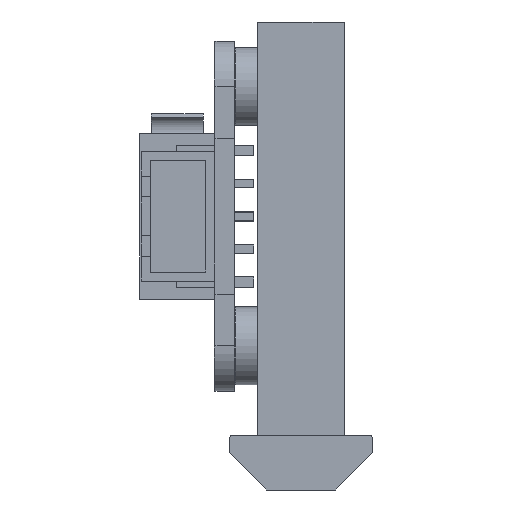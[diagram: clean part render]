
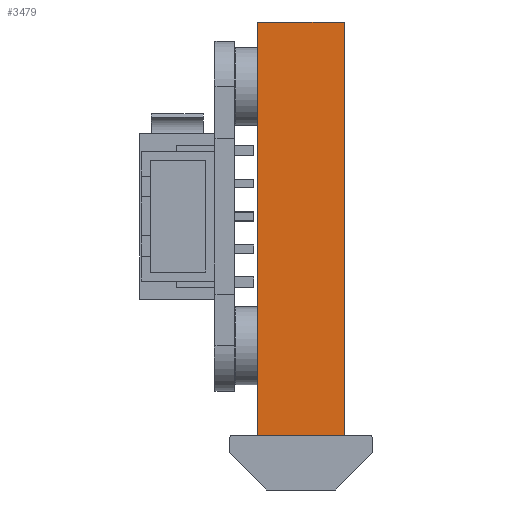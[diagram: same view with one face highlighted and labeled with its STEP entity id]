
A CAD part, front view. The second image highlights one B-rep face of the part: STEP entity #3479.
In plain terms, the highlighted planar face has unit normal (0, -1, 0).
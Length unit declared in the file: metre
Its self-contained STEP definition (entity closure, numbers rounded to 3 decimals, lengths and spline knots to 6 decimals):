
#260=ORIENTED_EDGE('',*,*,#1166,.F.);
#261=ORIENTED_EDGE('',*,*,#1193,.F.);
#262=ORIENTED_EDGE('',*,*,#1194,.T.);
#263=ORIENTED_EDGE('',*,*,#1195,.T.);
#1166=EDGE_CURVE('',#1641,#1642,#1965,.T.);
#1193=EDGE_CURVE('',#1659,#1641,#1986,.T.);
#1194=EDGE_CURVE('',#1659,#1660,#1987,.T.);
#1195=EDGE_CURVE('',#1660,#1642,#1988,.T.);
#1641=VERTEX_POINT('',#5536);
#1642=VERTEX_POINT('',#5538);
#1659=VERTEX_POINT('',#5590);
#1660=VERTEX_POINT('',#5592);
#1965=LINE('',#5537,#2392);
#1986=LINE('',#5589,#2413);
#1987=LINE('',#5591,#2414);
#1988=LINE('',#5593,#2415);
#2392=VECTOR('',#4627,1.);
#2413=VECTOR('',#4676,1.);
#2414=VECTOR('',#4677,1.);
#2415=VECTOR('',#4678,1.);
#2823=EDGE_LOOP('',(#260,#261,#262,#263));
#3070=FACE_BOUND('',#2823,.T.);
#3315=PLANE('',#4393);
#3479=ADVANCED_FACE('',(#3070),#3315,.T.);
#4393=AXIS2_PLACEMENT_3D('',#5588,#4674,#4675);
#4627=DIRECTION('',(-1.,0.,0.));
#4674=DIRECTION('',(0.,-1.,0.));
#4675=DIRECTION('',(0.,0.,-1.));
#4676=DIRECTION('',(0.,0.,-1.));
#4677=DIRECTION('',(-1.,0.,0.));
#4678=DIRECTION('',(0.,0.,-1.));
#5536=CARTESIAN_POINT('',(0.00334,-0.0125,0.002092));
#5537=CARTESIAN_POINT('',(0.,-0.0125,0.002092));
#5538=CARTESIAN_POINT('',(-0.00334,-0.0125,0.002092));
#5588=CARTESIAN_POINT('',(0.,-0.0125,0.034));
#5589=CARTESIAN_POINT('',(0.00334,-0.0125,0.034));
#5590=CARTESIAN_POINT('',(0.00334,-0.0125,0.034));
#5591=CARTESIAN_POINT('',(0.,-0.0125,0.034));
#5592=CARTESIAN_POINT('',(-0.00334,-0.0125,0.034));
#5593=CARTESIAN_POINT('',(-0.00334,-0.0125,0.034));
